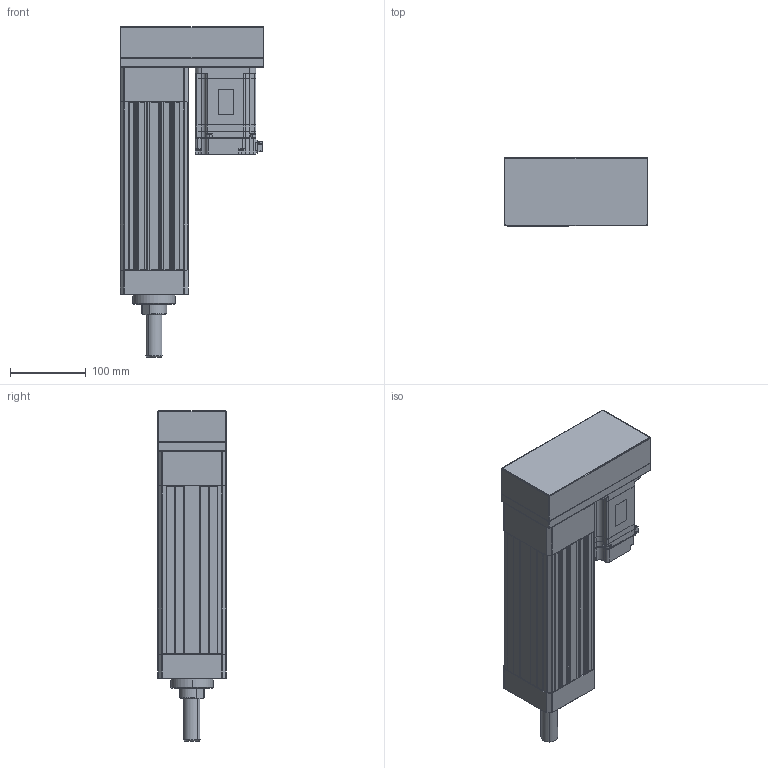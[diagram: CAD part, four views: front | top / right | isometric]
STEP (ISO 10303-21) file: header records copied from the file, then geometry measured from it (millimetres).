
FILE_DESCRIPTION (( 'STEP AP203' ), '1' );
FILE_NAME ('ANS090R-P100-05(10)(20)-W75-M.STEP', '2019-03-02T10:11:20', ( 'user' ), ( '' ), 'SwSTEP 2.0', 'SolidWorks 2013', '' );
FILE_SCHEMA (( 'CONFIG_CONTROL_DESIGN' ));
Length unit declared in the file: millimetre
Products named in the file (4): SGMJV_08A_A21; ANS090 ROD ST100-M; ANS090R-P100-05(10)(20)-W75-M; ANS090R P100 VER2
Assembly tree (3 placements, depth 2):
  ANS090R-P100-05(10)(20)-W75-M
    ANS090R P100 VER2
    SGMJV_08A_A21
    ANS090 ROD ST100-M
Bounding box: 190 x 90 x 436 mm (x, y, z)
Volume: 2360344.4 mm3; surface area: 419449.5 mm2
Topology: 3 solids, 3 shells, 1078 faces, 2857 edges, 1838 vertices
Faces by surface type: plane 646, cylinder 346, cone 74, bspline 8, sphere 4
Entity records: 33969 total; most frequent: CARTESIAN_POINT 6617, ORIENTED_EDGE 5674, DIRECTION 5555, EDGE_CURVE 2837, VECTOR 1987, LINE 1987, VERTEX_POINT 1838, AXIS2_PLACEMENT_3D 1784
